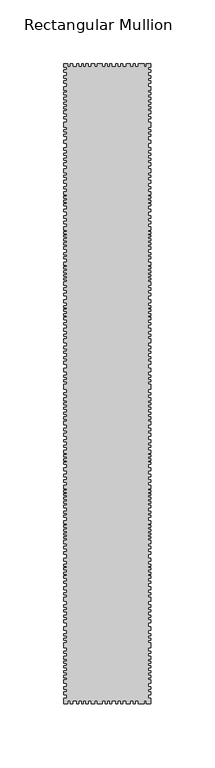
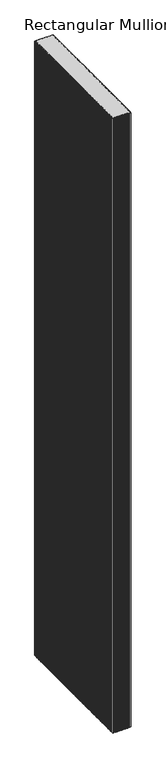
"""IFC4 building model written with IfcOpenShell, lengths in millimetres: member geometry, Rectangular Mullion : DucoSun Cubic Design louvre 500."""

from ifc_helpers import new_model, si_unit, frame, origin, place, context, project, spatial, polyline, outline, extrude, source, transform, mapped, element, save


def rectangular_mullion_1aaeb193(model_context):
    return source(origin(), model_context, "Body", "SweptSolid", [
        extrude(outline(polyline([(34.0, 497.3782451), (32.0, 497.3782451), (32.0, 495.4241521), (34.0, 495.4241521), (34.0, 493.6532553), (32.0, 493.6532553), (32.0, 490.9460223), (34.0, 490.9460223), (34.0, 488.9105087), (32.0, 488.9105087), (32.0, 486.7121541), (34.0, 486.7121541), (34.0, 485.0023227), (32.0, 485.0023227), (32.0, 482.3561551), (34.0, 482.3561551), (34.0, 479.3843053), (32.0, 479.3843053), (32.0, 477.8917893), (34.0, 477.8917893), (34.0, 475.8425117), (32.0, 475.8425117), (32.0, 473.8680636), (34.0, 473.8680636), (34.0, 472.1582322), (32.0, 472.1582322), (32.0, 470.0820083), (34.0, 470.0820083), (34.0, 468.3111116), (32.0, 468.3111116), (32.0, 466.4995045), (34.0, 466.4995045), (34.0, 465.0713495), (32.0, 465.0713495), (32.0, 463.4577392), (34.0, 463.4577392), (34.0, 461.0328231), (32.0, 461.0328231), (32.0, 458.5725067), (34.0, 458.5725067), (34.0, 457.0325964), (32.0, 457.0325964), (32.0, 454.5014796), (34.0, 454.5014796), (34.0, 450.4127524), (32.0, 450.4127524), (32.0, 448.4126391), (34.0, 448.4126391), (34.0, 446.8373286), (32.0, 446.8373286), (32.0, 444.9965163), (34.0, 444.9965163), (34.0, 443.3504053), (32.0, 443.3504053), (32.0, 440.3767855), (34.0, 440.3767855), (34.0, 437.9545244), (32.0, 437.9545244), (32.0, 434.5552168), (34.0, 434.5552168), (34.0, 432.5197032), (32.0, 432.5197032), (32.0, 430.239928), (34.0, 430.239928), (34.0, 428.6929377), (32.0, 428.6929377), (32.0, 426.4335177), (34.0, 426.4335177), (34.0, 424.5608452), (32.0, 424.5608452), (32.0, 422.6271073), (34.0, 422.6271073), (34.0, 420.5508835), (32.0, 420.5508835), (32.0, 418.0064916), (34.0, 418.0064916), (34.0, 414.9328661), (32.0, 414.9328661), (32.0, 412.9177077), (34.0, 412.9177077), (34.0, 411.4114277), (32.0, 411.4114277), (32.0, 408.9688114), (34.0, 408.9688114), (34.0, 406.7118273), (32.0, 406.7118273), (32.0, 403.8852623), (34.0, 403.8852623), (34.0, 402.4316003), (32.0, 402.4316003), (32.0, 399.9011516), (34.0, 399.9011516), (34.0, 397.8552569), (32.0, 397.8552569), (32.0, 396.6169522), (34.0, 396.6169522), (34.0, 395.0825312), (32.0, 395.0825312), (32.0, 393.4673512), (34.0, 393.4673512), (34.0, 392.0675286), (32.0, 392.0675286), (32.0, 390.5869469), (34.0, 390.5869469), (34.0, 389.1602046), (32.0, 389.1602046), (32.0, 386.3310055), (34.0, 386.3310055), (34.0, 384.2608252), (32.0, 384.2608252), (32.0, 381.1919832), (34.0, 381.1919832), (34.0, 379.2537672), (32.0, 379.2537672), (32.0, 376.9360418), (34.0, 376.9360418), (34.0, 375.0004598), (32.0, 375.0004598), (32.0, 372.9007258), (34.0, 372.9007258), (34.0, 370.1010805), (32.0, 370.1010805), (32.0, 368.8089365), (34.0, 368.8089365), (34.0, 367.3014351), (32.0, 367.3014351), (32.0, 366.0362108), (34.0, 366.0362108), (34.0, 365.0401831), (32.0, 365.0401831), (32.0, 363.2096458), (34.0, 363.2096458), (34.0, 361.6483051), (32.0, 361.6483051), (32.0, 360.1408038), (34.0, 360.1408038), (34.0, 358.6063828), (32.0, 358.6063828), (32.0, 357.0719618), (34.0, 357.0719618), (34.0, 355.0799064), (32.0, 355.0799064), (32.0, 352.3762692), (34.0, 352.3762692), (34.0, 350.8903036), (32.0, 350.8903036), (32.0, 349.1257194), (34.0, 349.1257194), (34.0, 347.6087962), (32.0, 347.6087962), (32.0, 344.8535683), (34.0, 344.8535683), (34.0, 342.7484504), (32.0, 342.7484504), (32.0, 341.4172729), (34.0, 341.4172729), (34.0, 339.9622649), (32.0, 339.9622649), (32.0, 338.3524688), (34.0, 338.3524688), (34.0, 336.8355456), (32.0, 336.8355456), (32.0, 335.1947919), (34.0, 335.1947919), (34.0, 333.9255296), (32.0, 333.9255296), (32.0, 332.5014792), (34.0, 332.5014792), (34.0, 331.1083865), (32.0, 331.1083865), (32.0, 329.6843361), (34.0, 329.6843361), (34.0, 327.0529387), (32.0, 327.0529387), (32.0, 324.9787784), (34.0, 324.9787784), (34.0, 323.0284485), (32.0, 323.0284485), (32.0, 320.7995001), (34.0, 320.7995001), (34.0, 318.8182126), (32.0, 318.8182126), (32.0, 315.6914933), (34.0, 315.6914933), (34.0, 313.4935025), (32.0, 313.4935025), (32.0, 310.954978), (34.0, 310.954978), (34.0, 309.4070971), (32.0, 309.4070971), (32.0, 308.1378348), (34.0, 308.1378348), (34.0, 306.4970812), (32.0, 306.4970812), (32.0, 304.8253698), (34.0, 304.8253698), (34.0, 303.3394042), (32.0, 303.3394042), (32.0, 302.0391843), (34.0, 302.0391843), (34.0, 300.0578969), (32.0, 300.0578969), (32.0, 297.6741604), (34.0, 297.6741604), (34.0, 296.0953219), (32.0, 296.0953219), (32.0, 293.3091364), (34.0, 293.3091364), (34.0, 291.0182728), (32.0, 291.0182728), (32.0, 288.572621), (34.0, 288.572621), (34.0, 287.1485707), (32.0, 287.1485707), (32.0, 285.0124951), (34.0, 285.0124951), (34.0, 282.1643944), (32.0, 282.1643944), (32.0, 279.3782089), (34.0, 279.3782089), (34.0, 277.427879), (32.0, 277.427879), (32.0, 275.4156339), (34.0, 275.4156339), (34.0, 273.6510498), (32.0, 273.6510498), (32.0, 271.1744404), (34.0, 271.1744404), (34.0, 269.6884748), (32.0, 269.6884748), (32.0, 267.5523993), (34.0, 267.5523993), (34.0, 265.4163237), (32.0, 265.4163237), (32.0, 262.1967316), (34.0, 262.1967316), (34.0, 259.5343765), (32.0, 259.5343765), (32.0, 256.7791486), (34.0, 256.7791486), (34.0, 255.0764797), (32.0, 255.0764797), (32.0, 252.9404041), (34.0, 252.9404041), (34.0, 251.6092266), (32.0, 251.6092266), (32.0, 249.5660239), (34.0, 249.5660239), (34.0, 245.512038), (32.0, 245.512038), (32.0, 243.0030092), (34.0, 243.0030092), (34.0, 241.3312979), (32.0, 241.3312979), (32.0, 239.0404342), (34.0, 239.0404342), (34.0, 236.5638249), (32.0, 236.5638249), (32.0, 235.015944), (34.0, 235.015944), (34.0, 233.5609361), (32.0, 233.5609361), (32.0, 231.5796486), (34.0, 231.5796486), (34.0, 230.0627254), (32.0, 230.0627254), (32.0, 227.8337769), (34.0, 227.8337769), (34.0, 226.1620656), (32.0, 226.1620656), (32.0, 224.0259901), (34.0, 224.0259901), (34.0, 222.0756602), (32.0, 222.0756602), (32.0, 220.6516099), (34.0, 220.6516099), (34.0, 217.7415939), (32.0, 217.7415939), (32.0, 215.2030693), (34.0, 215.2030693), (34.0, 213.1908242), (32.0, 213.1908242), (32.0, 211.2404944), (34.0, 211.2404944), (34.0, 209.1353764), (32.0, 209.1353764), (32.0, 206.2563181), (34.0, 206.2563181), (34.0, 203.7186411), (32.0, 203.7186411), (32.0, 201.7889994), (34.0, 201.7889994), (34.0, 200.3353374), (32.0, 200.3353374), (32.0, 197.8048887), (34.0, 197.8048887), (34.0, 195.758994), (32.0, 195.758994), (32.0, 194.5206893), (34.0, 194.5206893), (34.0, 192.9862683), (32.0, 192.9862683), (32.0, 191.3710883), (34.0, 191.3710883), (34.0, 189.9712657), (32.0, 189.9712657), (32.0, 188.490684), (34.0, 188.490684), (34.0, 187.0639417), (32.0, 187.0639417), (32.0, 184.2347426), (34.0, 184.2347426), (34.0, 182.1645623), (32.0, 182.1645623), (32.0, 179.0957203), (34.0, 179.0957203), (34.0, 177.1575043), (32.0, 177.1575043), (32.0, 174.8397789), (34.0, 174.8397789), (34.0, 172.9041969), (32.0, 172.9041969), (32.0, 170.8044629), (34.0, 170.8044629), (34.0, 168.0048176), (32.0, 168.0048176), (32.0, 166.7126736), (34.0, 166.7126736), (34.0, 165.2051722), (32.0, 165.2051722), (32.0, 163.9399479), (34.0, 163.9399479), (34.0, 162.9439202), (32.0, 162.9439202), (32.0, 161.1133829), (34.0, 161.1133829), (34.0, 159.5520422), (32.0, 159.5520422), (32.0, 158.0445409), (34.0, 158.0445409), (34.0, 156.5101199), (32.0, 156.5101199), (32.0, 154.9756989), (34.0, 154.9756989), (34.0, 152.9836435), (32.0, 152.9836435), (32.0, 150.2800063), (34.0, 150.2800063), (34.0, 148.7940407), (32.0, 148.7940407), (32.0, 147.0294565), (34.0, 147.0294565), (34.0, 145.5125333), (32.0, 145.5125333), (32.0, 142.7573054), (34.0, 142.7573054), (34.0, 140.6521875), (32.0, 140.6521875), (32.0, 139.32101), (34.0, 139.32101), (34.0, 137.866002), (32.0, 137.866002), (32.0, 136.2562059), (34.0, 136.2562059), (34.0, 134.7392827), (32.0, 134.7392827), (32.0, 133.098529), (34.0, 133.098529), (34.0, 131.8292667), (32.0, 131.8292667), (32.0, 130.4052163), (34.0, 130.4052163), (34.0, 129.0121236), (32.0, 129.0121236), (32.0, 127.5880732), (34.0, 127.5880732), (34.0, 124.9566758), (32.0, 124.9566758), (32.0, 122.8825155), (34.0, 122.8825155), (34.0, 120.9321856), (32.0, 120.9321856), (32.0, 118.7032372), (34.0, 118.7032372), (34.0, 116.7219497), (32.0, 116.7219497), (32.0, 113.5952304), (34.0, 113.5952304), (34.0, 111.3972396), (32.0, 111.3972396), (32.0, 108.8587151), (34.0, 108.8587151), (34.0, 107.3108342), (32.0, 107.3108342), (32.0, 106.0415719), (34.0, 106.0415719), (34.0, 104.4008183), (32.0, 104.4008183), (32.0, 102.7291069), (34.0, 102.7291069), (34.0, 101.2431413), (32.0, 101.2431413), (32.0, 99.9429214), (34.0, 99.9429214), (34.0, 97.961634), (32.0, 97.961634), (32.0, 95.5778975), (34.0, 95.5778975), (34.0, 93.999059), (32.0, 93.999059), (32.0, 91.2128735), (34.0, 91.2128735), (34.0, 88.9220099), (32.0, 88.9220099), (32.0, 86.4763581), (34.0, 86.4763581), (34.0, 85.0523078), (32.0, 85.0523078), (32.0, 82.9162322), (34.0, 82.9162322), (34.0, 80.0681315), (32.0, 80.0681315), (32.0, 77.281946), (34.0, 77.281946), (34.0, 75.3316161), (32.0, 75.3316161), (32.0, 73.319371), (34.0, 73.319371), (34.0, 71.5547869), (32.0, 71.5547869), (32.0, 69.0781775), (34.0, 69.0781775), (34.0, 67.5922119), (32.0, 67.5922119), (32.0, 65.4561364), (34.0, 65.4561364), (34.0, 63.3200608), (32.0, 63.3200608), (32.0, 60.1004687), (34.0, 60.1004687), (34.0, 57.4381136), (32.0, 57.4381136), (32.0, 54.6828857), (34.0, 54.6828857), (34.0, 52.9802168), (32.0, 52.9802168), (32.0, 50.8441412), (34.0, 50.8441412), (34.0, 49.5129637), (32.0, 49.5129637), (32.0, 47.469761), (34.0, 47.469761), (34.0, 43.4157751), (32.0, 43.4157751), (32.0, 40.9067463), (34.0, 40.9067463), (34.0, 39.235035), (32.0, 39.235035), (32.0, 36.9441713), (34.0, 36.9441713), (34.0, 34.467562), (32.0, 34.467562), (32.0, 32.9196811), (34.0, 32.9196811), (34.0, 31.4646731), (32.0, 31.4646731), (32.0, 29.4833857), (34.0, 29.4833857), (34.0, 27.9664625), (32.0, 27.9664625), (32.0, 25.737514), (34.0, 25.737514), (34.0, 24.0658027), (32.0, 24.0658027), (32.0, 21.9297272), (34.0, 21.9297272), (34.0, 19.9793973), (32.0, 19.9793973), (32.0, 18.555347), (34.0, 18.555347), (34.0, 15.645331), (32.0, 15.645331), (32.0, 13.1068064), (34.0, 13.1068064), (34.0, 11.0945613), (32.0, 11.0945613), (32.0, 9.1442315), (34.0, 9.1442315), (34.0, 7.0391135), (32.0, 7.0391135), (32.0, 4.0), (34.0, 4.0), (34.0, 0.0), (30.4544414, 0.0), (30.4544414, 2.0), (28.627942, 2.0), (28.627942, 0.0), (23.9842994, 0.0), (23.9842994, 2.0), (21.8172663, 2.0), (21.8172663, 0.0), (20.3003431, 0.0), (20.3003431, 2.0), (17.9475642, 2.0), (17.9475642, 0.0), (14.8827601, 0.0), (14.8827601, 2.0), (12.0965746, 2.0), (12.0965746, 0.0), (10.3939057, 0.0), (10.3939057, 2.0), (8.0101692, 2.0), (8.0101692, 0.0), (6.5242036, 0.0), (6.5242036, 2.0), (3.4884678, 2.0), (3.4884678, 0.0), (1.7094289, 0.0), (1.7094289, 2.0), (0.0, 2.0), (0.0, 0.0), (-1.8486488, 0.0), (-1.8486488, 2.0), (-4.2128978, 2.0), (-4.2128978, 0.0), (-7.9816511, 0.0), (-7.9816511, 2.0), (-10.0415908, 2.0), (-10.0415908, 0.0), (-12.7335575, 0.0), (-12.7335575, 2.0), (-15.0041729, 2.0), (-15.0041729, 0.0), (-16.8768453, 0.0), (-16.8768453, 2.0), (-18.9367851, 2.0), (-18.9367851, 0.0), (-20.2710642, 0.0), (-20.2710642, 2.0), (-22.3075955, 2.0), (-22.3075955, 0.0), (-23.8993671, 0.0), (-23.8993671, 2.0), (-26.9658683, 2.0), (-26.9658683, 0.0), (-28.9321744, 0.0), (-28.9321744, 2.0), (-30.8750721, 2.0), (-30.8750721, 0.0), (-34.0, 0.0), (-34.0, 4.0), (-32.0, 4.0), (-32.0, 7.0391135), (-34.0, 7.0391135), (-34.0, 9.1442315), (-32.0, 9.1442315), (-32.0, 11.0945613), (-34.0, 11.0945613), (-34.0, 13.1068064), (-32.0, 13.1068064), (-32.0, 15.645331), (-34.0, 15.645331), (-34.0, 18.555347), (-32.0, 18.555347), (-32.0, 19.9793973), (-34.0, 19.9793973), (-34.0, 21.9297272), (-32.0, 21.9297272), (-32.0, 24.0658027), (-34.0, 24.0658027), (-34.0, 25.737514), (-32.0, 25.737514), (-32.0, 27.9664625), (-34.0, 27.9664625), (-34.0, 29.4833857), (-32.0, 29.4833857), (-32.0, 31.4646731), (-34.0, 31.4646731), (-34.0, 32.9196811), (-32.0, 32.9196811), (-32.0, 34.467562), (-34.0, 34.467562), (-34.0, 36.9441713), (-32.0, 36.9441713), (-32.0, 39.235035), (-34.0, 39.235035), (-34.0, 40.9067463), (-32.0, 40.9067463), (-32.0, 43.4157751), (-34.0, 43.4157751), (-34.0, 47.469761), (-32.0, 47.469761), (-32.0, 49.5129637), (-34.0, 49.5129637), (-34.0, 50.8441412), (-32.0, 50.8441412), (-32.0, 52.9802168), (-34.0, 52.9802168), (-34.0, 54.6828857), (-32.0, 54.6828857), (-32.0, 57.4381136), (-34.0, 57.4381136), (-34.0, 60.1004687), (-32.0, 60.1004687), (-32.0, 63.3200608), (-34.0, 63.3200608), (-34.0, 65.4561364), (-32.0, 65.4561364), (-32.0, 67.5922119), (-34.0, 67.5922119), (-34.0, 69.0781775), (-32.0, 69.0781775), (-32.0, 71.5547869), (-34.0, 71.5547869), (-34.0, 73.319371), (-32.0, 73.319371), (-32.0, 75.3316161), (-34.0, 75.3316161), (-34.0, 77.281946), (-32.0, 77.281946), (-32.0, 80.0681315), (-34.0, 80.0681315), (-34.0, 82.9162322), (-32.0, 82.9162322), (-32.0, 85.0523078), (-34.0, 85.0523078), (-34.0, 86.4763581), (-32.0, 86.4763581), (-32.0, 88.9220099), (-34.0, 88.9220099), (-34.0, 91.2128735), (-32.0, 91.2128735), (-32.0, 93.999059), (-34.0, 93.999059), (-34.0, 95.5778975), (-32.0, 95.5778975), (-32.0, 97.961634), (-34.0, 97.961634), (-34.0, 99.9429214), (-32.0, 99.9429214), (-32.0, 101.2431413), (-34.0, 101.2431413), (-34.0, 102.7291069), (-32.0, 102.7291069), (-32.0, 104.4008183), (-34.0, 104.4008183), (-34.0, 106.0415719), (-32.0, 106.0415719), (-32.0, 107.3108342), (-34.0, 107.3108342), (-34.0, 108.8587151), (-32.0, 108.8587151), (-32.0, 111.3972396), (-34.0, 111.3972396), (-34.0, 113.5952304), (-32.0, 113.5952304), (-32.0, 116.7219497), (-34.0, 116.7219497), (-34.0, 118.7032372), (-32.0, 118.7032372), (-32.0, 120.9321856), (-34.0, 120.9321856), (-34.0, 122.8825155), (-32.0, 122.8825155), (-32.0, 124.9566758), (-34.0, 124.9566758), (-34.0, 127.5880732), (-32.0, 127.5880732), (-32.0, 129.0121236), (-34.0, 129.0121236), (-34.0, 130.4052163), (-32.0, 130.4052163), (-32.0, 131.8292667), (-34.0, 131.8292667), (-34.0, 133.098529), (-32.0, 133.098529), (-32.0, 134.7392827), (-34.0, 134.7392827), (-34.0, 136.2562059), (-32.0, 136.2562059), (-32.0, 137.866002), (-34.0, 137.866002), (-34.0, 139.32101), (-32.0, 139.32101), (-32.0, 140.6521875), (-34.0, 140.6521875), (-34.0, 142.7573054), (-32.0, 142.7573054), (-32.0, 145.5125333), (-34.0, 145.5125333), (-34.0, 147.0294565), (-32.0, 147.0294565), (-32.0, 148.7940407), (-34.0, 148.7940407), (-34.0, 150.2800063), (-32.0, 150.2800063), (-32.0, 152.9836435), (-34.0, 152.9836435), (-34.0, 154.9756989), (-32.0, 154.9756989), (-32.0, 156.5101199), (-34.0, 156.5101199), (-34.0, 158.0445409), (-32.0, 158.0445409), (-32.0, 159.5520422), (-34.0, 159.5520422), (-34.0, 161.1133829), (-32.0, 161.1133829), (-32.0, 162.9439202), (-34.0, 162.9439202), (-34.0, 163.9399479), (-32.0, 163.9399479), (-32.0, 165.2051722), (-34.0, 165.2051722), (-34.0, 166.7126736), (-32.0, 166.7126736), (-32.0, 168.0048176), (-34.0, 168.0048176), (-34.0, 170.8044629), (-32.0, 170.8044629), (-32.0, 172.9041969), (-34.0, 172.9041969), (-34.0, 174.8397789), (-32.0, 174.8397789), (-32.0, 177.1575043), (-34.0, 177.1575043), (-34.0, 179.0957203), (-32.0, 179.0957203), (-32.0, 182.1645623), (-34.0, 182.1645623), (-34.0, 184.2347426), (-32.0, 184.2347426), (-32.0, 187.0639417), (-34.0, 187.0639417), (-34.0, 188.490684), (-32.0, 188.490684), (-32.0, 189.9712657), (-34.0, 189.9712657), (-34.0, 191.3710883), (-32.0, 191.3710883), (-32.0, 192.9862683), (-34.0, 192.9862683), (-34.0, 194.5206893), (-32.0, 194.5206893), (-32.0, 195.758994), (-34.0, 195.758994), (-34.0, 197.8048887), (-32.0, 197.8048887), (-32.0, 200.3353374), (-34.0, 200.3353374), (-34.0, 201.7889994), (-32.0, 201.7889994), (-32.0, 204.6155644), (-34.0, 204.6155644), (-34.0, 206.2563181), (-32.0, 206.2563181), (-32.0, 209.1353764), (-34.0, 209.1353764), (-34.0, 211.2404944), (-32.0, 211.2404944), (-32.0, 213.1908242), (-34.0, 213.1908242), (-34.0, 215.2030693), (-32.0, 215.2030693), (-32.0, 217.7415939), (-34.0, 217.7415939), (-34.0, 220.6516099), (-32.0, 220.6516099), (-32.0, 222.0756602), (-34.0, 222.0756602), (-34.0, 224.0259901), (-32.0, 224.0259901), (-32.0, 226.1620656), (-34.0, 226.1620656), (-34.0, 227.8337769), (-32.0, 227.8337769), (-32.0, 230.0627254), (-34.0, 230.0627254), (-34.0, 231.5796486), (-32.0, 231.5796486), (-32.0, 233.5609361), (-34.0, 233.5609361), (-34.0, 235.015944), (-32.0, 235.015944), (-32.0, 236.5638249), (-34.0, 236.5638249), (-34.0, 239.0404342), (-32.0, 239.0404342), (-32.0, 241.3312979), (-34.0, 241.3312979), (-34.0, 243.0030092), (-32.0, 243.0030092), (-32.0, 245.512038), (-34.0, 245.512038), (-34.0, 249.5660239), (-32.0, 249.5660239), (-32.0, 251.6092266), (-34.0, 251.6092266), (-34.0, 252.9404041), (-32.0, 252.9404041), (-32.0, 255.0764797), (-34.0, 255.0764797), (-34.0, 256.7791486), (-32.0, 256.7791486), (-32.0, 259.5343765), (-34.0, 259.5343765), (-34.0, 262.1967316), (-32.0, 262.1967316), (-32.0, 265.4163237), (-34.0, 265.4163237), (-34.0, 267.5523993), (-32.0, 267.5523993), (-32.0, 269.6884748), (-34.0, 269.6884748), (-34.0, 271.1744404), (-32.0, 271.1744404), (-32.0, 273.6510498), (-34.0, 273.6510498), (-34.0, 275.4156339), (-32.0, 275.4156339), (-32.0, 277.427879), (-34.0, 277.427879), (-34.0, 279.3782089), (-32.0, 279.3782089), (-32.0, 282.1643944), (-34.0, 282.1643944), (-34.0, 285.0124951), (-32.0, 285.0124951), (-32.0, 287.1485707), (-34.0, 287.1485707), (-34.0, 288.572621), (-32.0, 288.572621), (-32.0, 291.0182728), (-34.0, 291.0182728), (-34.0, 293.3091364), (-32.0, 293.3091364), (-32.0, 296.0953219), (-34.0, 296.0953219), (-34.0, 297.6741604), (-32.0, 297.6741604), (-32.0, 300.0578969), (-34.0, 300.0578969), (-34.0, 302.0391843), (-32.0, 302.0391843), (-32.0, 303.3394042), (-34.0, 303.3394042), (-34.0, 304.8253698), (-32.0, 304.8253698), (-32.0, 306.4970812), (-34.0, 306.4970812), (-34.0, 308.1378348), (-32.0, 308.1378348), (-32.0, 309.4070971), (-34.0, 309.4070971), (-34.0, 310.954978), (-32.0, 310.954978), (-32.0, 313.4935025), (-34.0, 313.4935025), (-34.0, 315.6914933), (-32.0, 315.6914933), (-32.0, 318.8182126), (-34.0, 318.8182126), (-34.0, 320.7995001), (-32.0, 320.7995001), (-32.0, 323.0284485), (-34.0, 323.0284485), (-34.0, 324.9787784), (-32.0, 324.9787784), (-32.0, 327.0529387), (-34.0, 327.0529387), (-34.0, 329.6843361), (-32.0, 329.6843361), (-32.0, 331.1083865), (-34.0, 331.1083865), (-34.0, 332.5014792), (-32.0, 332.5014792), (-32.0, 333.9255296), (-34.0, 333.9255296), (-34.0, 335.1947919), (-32.0, 335.1947919), (-32.0, 336.8355456), (-34.0, 336.8355456), (-34.0, 338.3524688), (-32.0, 338.3524688), (-32.0, 339.9622649), (-34.0, 339.9622649), (-34.0, 341.4172729), (-32.0, 341.4172729), (-32.0, 342.7484504), (-34.0, 342.7484504), (-34.0, 344.8535683), (-32.0, 344.8535683), (-32.0, 347.6087962), (-34.0, 347.6087962), (-34.0, 349.1257194), (-32.0, 349.1257194), (-32.0, 350.8903036), (-34.0, 350.8903036), (-34.0, 352.3762692), (-32.0, 352.3762692), (-32.0, 355.0799064), (-34.0, 355.0799064), (-34.0, 357.0719618), (-32.0, 357.0719618), (-32.0, 358.6063828), (-34.0, 358.6063828), (-34.0, 360.1408038), (-32.0, 360.1408038), (-32.0, 361.6483051), (-34.0, 361.6483051), (-34.0, 363.2096458), (-32.0, 363.2096458), (-32.0, 365.0401831), (-34.0, 365.0401831), (-34.0, 366.0362108), (-32.0, 366.0362108), (-32.0, 367.3014351), (-34.0, 367.3014351), (-34.0, 368.8089365), (-32.0, 368.8089365), (-32.0, 370.1010805), (-34.0, 370.1010805), (-34.0, 372.9007258), (-32.0, 372.9007258), (-32.0, 375.0004598), (-34.0, 375.0004598), (-34.0, 376.9360418), (-32.0, 376.9360418), (-32.0, 379.2537672), (-34.0, 379.2537672), (-34.0, 381.1919832), (-32.0, 381.1919832), (-32.0, 384.2608252), (-34.0, 384.2608252), (-34.0, 386.3310055), (-32.0, 386.3310055), (-32.0, 389.1602046), (-34.0, 389.1602046), (-34.0, 390.5869469), (-32.0, 390.5869469), (-32.0, 392.0675286), (-34.0, 392.0675286), (-34.0, 393.4673512), (-32.0, 393.4673512), (-32.0, 395.0825312), (-34.0, 395.0825312), (-34.0, 396.6169522), (-32.0, 396.6169522), (-32.0, 397.8552569), (-34.0, 397.8552569), (-34.0, 399.9011516), (-32.0, 399.9011516), (-32.0, 402.4316003), (-34.0, 402.4316003), (-34.0, 403.8852623), (-32.0, 403.8852623), (-32.0, 406.7118273), (-34.0, 406.7118273), (-34.0, 408.9688114), (-32.0, 408.9688114), (-32.0, 411.4114277), (-34.0, 411.4114277), (-34.0, 412.9177077), (-32.0, 412.9177077), (-32.0, 414.9328661), (-34.0, 414.9328661), (-34.0, 418.0064916), (-32.0, 418.0064916), (-32.0, 420.5508835), (-34.0, 420.5508835), (-34.0, 422.6271073), (-32.0, 422.6271073), (-32.0, 424.5608452), (-34.0, 424.5608452), (-34.0, 426.4335177), (-32.0, 426.4335177), (-32.0, 428.6929377), (-34.0, 428.6929377), (-34.0, 430.239928), (-32.0, 430.239928), (-32.0, 432.5197032), (-34.0, 432.5197032), (-34.0, 434.5552168), (-32.0, 434.5552168), (-32.0, 437.9545244), (-34.0, 437.9545244), (-34.0, 440.3767855), (-32.0, 440.3767855), (-32.0, 443.3504053), (-34.0, 443.3504053), (-34.0, 444.9965163), (-32.0, 444.9965163), (-32.0, 446.8373286), (-34.0, 446.8373286), (-34.0, 448.4126391), (-32.0, 448.4126391), (-32.0, 450.4127524), (-34.0, 450.4127524), (-34.0, 454.5014796), (-32.0, 454.5014796), (-32.0, 457.0325964), (-34.0, 457.0325964), (-34.0, 458.5725067), (-32.0, 458.5725067), (-32.0, 461.0328231), (-34.0, 461.0328231), (-34.0, 463.4577392), (-32.0, 463.4577392), (-32.0, 465.0713495), (-34.0, 465.0713495), (-34.0, 466.4995045), (-32.0, 466.4995045), (-32.0, 468.3111116), (-34.0, 468.3111116), (-34.0, 470.0820083), (-32.0, 470.0820083), (-32.0, 472.1582322), (-34.0, 472.1582322), (-34.0, 473.8680636), (-32.0, 473.8680636), (-32.0, 475.8425117), (-34.0, 475.8425117), (-34.0, 477.8917893), (-32.0, 477.8917893), (-32.0, 479.3843053), (-34.0, 479.3843053), (-34.0, 482.3561551), (-32.0, 482.3561551), (-32.0, 485.0023227), (-34.0, 485.0023227), (-34.0, 486.7121541), (-32.0, 486.7121541), (-32.0, 488.9105087), (-34.0, 488.9105087), (-34.0, 490.9460223), (-32.0, 490.9460223), (-32.0, 493.6532553), (-34.0, 493.6532553), (-34.0, 495.4241521), (-32.0, 495.4241521), (-32.0, 497.3782451), (-34.0, 497.3782451), (-34.0, 500.0), (-30.8750721, 500.0), (-30.8750721, 498.0), (-28.9321744, 498.0), (-28.9321744, 500.0), (-26.9658683, 500.0), (-26.9658683, 498.0), (-23.8993671, 498.0), (-23.8993671, 500.0), (-22.3075955, 500.0), (-22.3075955, 498.0), (-20.2710642, 498.0), (-20.2710642, 500.0), (-18.9367851, 500.0), (-18.9367851, 498.0), (-16.8768453, 498.0), (-16.8768453, 500.0), (-15.0041729, 500.0), (-15.0041729, 498.0), (-12.7335575, 498.0), (-12.7335575, 500.0), (-10.0415908, 500.0), (-10.0415908, 498.0), (-7.9816511, 498.0), (-7.9816511, 500.0), (-4.2128978, 500.0), (-4.2128978, 498.0), (-1.8486488, 498.0), (-1.8486488, 500.0), (0.0, 500.0), (0.0, 498.0), (1.7094289, 498.0), (1.7094289, 500.0), (3.4884678, 500.0), (3.4884678, 498.0), (6.5242036, 498.0), (6.5242036, 500.0), (8.0101692, 500.0), (8.0101692, 498.0), (10.3939057, 498.0), (10.3939057, 500.0), (12.0965746, 500.0), (12.0965746, 498.0), (14.8827601, 498.0), (14.8827601, 500.0), (17.9475642, 500.0), (17.9475642, 498.0), (20.3003431, 498.0), (20.3003431, 500.0), (21.8172663, 500.0), (21.8172663, 498.0), (23.9842994, 498.0), (23.9842994, 500.0), (28.627942, 500.0), (28.627942, 498.0), (30.4544414, 498.0), (30.4544414, 500.0), (34.0, 500.0), (34.0, 497.3782451)])), frame((0.0, 0.0, -2400.0), z_axis=(0.0, 0.0, 1.0), x_axis=(1.0, 0.0, 0.0)), (0.0, 0.0, 1.0), 2400.0),
    ])


if __name__ == "__main__":
    model = new_model("IFC4")
    model_context = context("Model", 3, world=origin())
    ifc_project = project(units=[si_unit("LENGTHUNIT", "METRE", prefix="MILLI")], contexts=[model_context])
    site = spatial("IfcSite", under=ifc_project)
    building = spatial("IfcBuilding", under=site)
    placement = place(None, origin())
    rectangular_mullion_shape = rectangular_mullion_1aaeb193(model_context)
    element("IfcMember", 1, ObjectType="Rectangular Mullion : DucoSun Cubic Design louvre 500", at=placement, inside=building, context=model_context, shape_type="MappedRepresentation", body=[
        mapped(rectangular_mullion_shape, transform((0.0, 0.0, 0.0), x_axis=(1.0, 0.0, 0.0), y_axis=(0.0, 1.0, 0.0), z_axis=(0.0, 0.0, 1.0))),
    ])
    save(model, "model.ifc")
